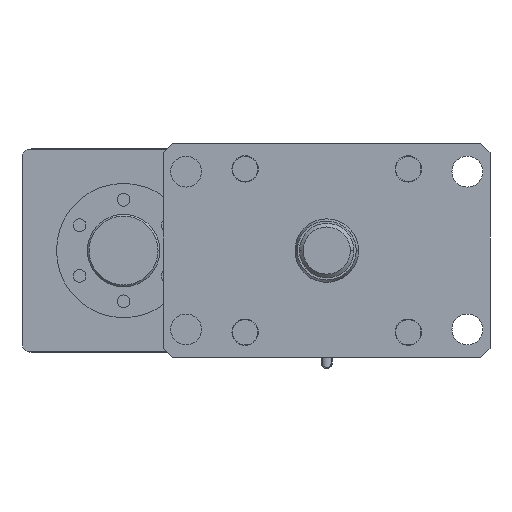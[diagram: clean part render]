
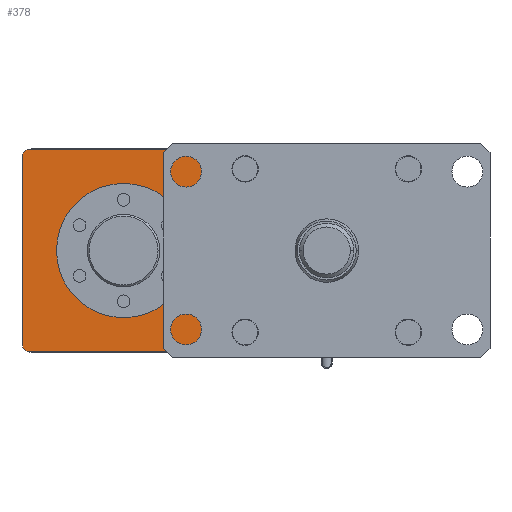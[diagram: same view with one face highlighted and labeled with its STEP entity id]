
A CAD part, front view. The second image highlights one B-rep face of the part: STEP entity #378.
In plain terms, the highlighted planar face has unit normal (0, -1, 0).
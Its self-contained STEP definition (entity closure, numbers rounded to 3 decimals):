
#160 = VERTEX_POINT ( 'NONE', #3228 ) ;
#197 = DIRECTION ( 'NONE',  ( -1., 0., 0. ) ) ;
#378 = ADVANCED_FACE ( 'NONE', ( #5272, #8589 ), #697, .F. ) ;
#618 = VERTEX_POINT ( 'NONE', #3318 ) ;
#697 = PLANE ( 'NONE',  #12873 ) ;
#1014 = DIRECTION ( 'NONE',  ( 0., -1., 0. ) ) ;
#1202 = AXIS2_PLACEMENT_3D ( 'NONE', #14118, #6649, #15372 ) ;
#1368 = VECTOR ( 'NONE', #1792, 1000. ) ;
#1548 = EDGE_CURVE ( 'NONE', #8084, #11542, #8605, .T. ) ;
#1792 = DIRECTION ( 'NONE',  ( 0., 0., 1. ) ) ;
#1837 = EDGE_CURVE ( 'NONE', #12528, #160, #4712, .T. ) ;
#2119 = CIRCLE ( 'NONE', #11945, 37. ) ;
#2633 = ORIENTED_EDGE ( 'NONE', *, *, #13219, .F. ) ;
#2954 = EDGE_LOOP ( 'NONE', ( #2633, #4516 ) ) ;
#3035 = LINE ( 'NONE', #7595, #3418 ) ;
#3228 = CARTESIAN_POINT ( 'NONE',  ( -59.6, 0., 55.8 ) ) ;
#3269 = DIRECTION ( 'NONE',  ( 1., 0., 0. ) ) ;
#3318 = CARTESIAN_POINT ( 'NONE',  ( -167.8, 0., -52.4 ) ) ;
#3418 = VECTOR ( 'NONE', #197, 1000. ) ;
#3823 = DIRECTION ( 'NONE',  ( 0., -1., 0. ) ) ;
#4016 = EDGE_CURVE ( 'NONE', #5645, #12097, #10221, .T. ) ;
#4215 = CARTESIAN_POINT ( 'NONE',  ( -112., 0., 37. ) ) ;
#4404 = CARTESIAN_POINT ( 'NONE',  ( -167.8, 0., 56. ) ) ;
#4460 = CARTESIAN_POINT ( 'NONE',  ( -164.4, 0., -55.8 ) ) ;
#4516 = ORIENTED_EDGE ( 'NONE', *, *, #1548, .F. ) ;
#4712 = CIRCLE ( 'NONE', #5394, 5. ) ;
#5272 = FACE_OUTER_BOUND ( 'NONE', #7024, .T. ) ;
#5301 = VERTEX_POINT ( 'NONE', #10665 ) ;
#5394 = AXIS2_PLACEMENT_3D ( 'NONE', #6120, #14834, #7376 ) ;
#5629 = EDGE_CURVE ( 'NONE', #9560, #618, #9507, .T. ) ;
#5645 = VERTEX_POINT ( 'NONE', #4460 ) ;
#6120 = CARTESIAN_POINT ( 'NONE',  ( -61., 0., 51. ) ) ;
#6485 = DIRECTION ( 'NONE',  ( 0., -1., 0. ) ) ;
#6649 = DIRECTION ( 'NONE',  ( 0., -1., 0. ) ) ;
#6843 = AXIS2_PLACEMENT_3D ( 'NONE', #8442, #1014, #9686 ) ;
#7024 = EDGE_LOOP ( 'NONE', ( #9488, #9644, #15478, #8915, #7586, #12681, #14496 ) ) ;
#7283 = VECTOR ( 'NONE', #3269, 1000. ) ;
#7376 = DIRECTION ( 'NONE',  ( -1., 0., 0. ) ) ;
#7586 = ORIENTED_EDGE ( 'NONE', *, *, #5629, .T. ) ;
#7595 = CARTESIAN_POINT ( 'NONE',  ( -168., 0., 55.8 ) ) ;
#7685 = CIRCLE ( 'NONE', #9063, 5. ) ;
#7988 = CARTESIAN_POINT ( 'NONE',  ( -112., 0., -37. ) ) ;
#8084 = VERTEX_POINT ( 'NONE', #7988 ) ;
#8171 = DIRECTION ( 'NONE',  ( -1., 0., 0. ) ) ;
#8442 = CARTESIAN_POINT ( 'NONE',  ( -112., 0., 0. ) ) ;
#8589 = FACE_BOUND ( 'NONE', #2954, .T. ) ;
#8605 = CIRCLE ( 'NONE', #6843, 37. ) ;
#8915 = ORIENTED_EDGE ( 'NONE', *, *, #9138, .T. ) ;
#9063 = AXIS2_PLACEMENT_3D ( 'NONE', #11281, #3823, #12506 ) ;
#9138 = EDGE_CURVE ( 'NONE', #5301, #9560, #7685, .T. ) ;
#9216 = CARTESIAN_POINT ( 'NONE',  ( -56.2, 0., 56. ) ) ;
#9488 = ORIENTED_EDGE ( 'NONE', *, *, #12333, .T. ) ;
#9507 = LINE ( 'NONE', #4404, #11665 ) ;
#9560 = VERTEX_POINT ( 'NONE', #12169 ) ;
#9644 = ORIENTED_EDGE ( 'NONE', *, *, #1837, .T. ) ;
#9686 = DIRECTION ( 'NONE',  ( -1., 0., 0. ) ) ;
#10221 = LINE ( 'NONE', #10726, #7283 ) ;
#10615 = DIRECTION ( 'NONE',  ( 0., 0., -1. ) ) ;
#10665 = CARTESIAN_POINT ( 'NONE',  ( -164.4, 0., 55.8 ) ) ;
#10726 = CARTESIAN_POINT ( 'NONE',  ( -168., 0., -55.8 ) ) ;
#10895 = LINE ( 'NONE', #9216, #1368 ) ;
#11020 = EDGE_CURVE ( 'NONE', #618, #5645, #11338, .T. ) ;
#11281 = CARTESIAN_POINT ( 'NONE',  ( -163., 0., 51. ) ) ;
#11338 = CIRCLE ( 'NONE', #1202, 5. ) ;
#11542 = VERTEX_POINT ( 'NONE', #4215 ) ;
#11665 = VECTOR ( 'NONE', #10615, 1000. ) ;
#11945 = AXIS2_PLACEMENT_3D ( 'NONE', #13955, #6485, #15205 ) ;
#12080 = CARTESIAN_POINT ( 'NONE',  ( -56.2, 0., 52.4 ) ) ;
#12097 = VERTEX_POINT ( 'NONE', #14878 ) ;
#12169 = CARTESIAN_POINT ( 'NONE',  ( -167.8, 0., 52.4 ) ) ;
#12333 = EDGE_CURVE ( 'NONE', #12097, #12528, #10895, .T. ) ;
#12506 = DIRECTION ( 'NONE',  ( -1., 0., 0. ) ) ;
#12528 = VERTEX_POINT ( 'NONE', #12080 ) ;
#12681 = ORIENTED_EDGE ( 'NONE', *, *, #11020, .T. ) ;
#12873 = AXIS2_PLACEMENT_3D ( 'NONE', #14378, #15625, #8171 ) ;
#13219 = EDGE_CURVE ( 'NONE', #11542, #8084, #2119, .T. ) ;
#13955 = CARTESIAN_POINT ( 'NONE',  ( -112., 0., 0. ) ) ;
#14118 = CARTESIAN_POINT ( 'NONE',  ( -163., 0., -51. ) ) ;
#14319 = EDGE_CURVE ( 'NONE', #160, #5301, #3035, .T. ) ;
#14378 = CARTESIAN_POINT ( 'NONE',  ( -168., 0., 56. ) ) ;
#14496 = ORIENTED_EDGE ( 'NONE', *, *, #4016, .T. ) ;
#14834 = DIRECTION ( 'NONE',  ( 0., -1., 0. ) ) ;
#14878 = CARTESIAN_POINT ( 'NONE',  ( -56.2, 0., -55.8 ) ) ;
#15205 = DIRECTION ( 'NONE',  ( -1., 0., 0. ) ) ;
#15372 = DIRECTION ( 'NONE',  ( -1., 0., 0. ) ) ;
#15478 = ORIENTED_EDGE ( 'NONE', *, *, #14319, .T. ) ;
#15625 = DIRECTION ( 'NONE',  ( 0., 1., 0. ) ) ;
